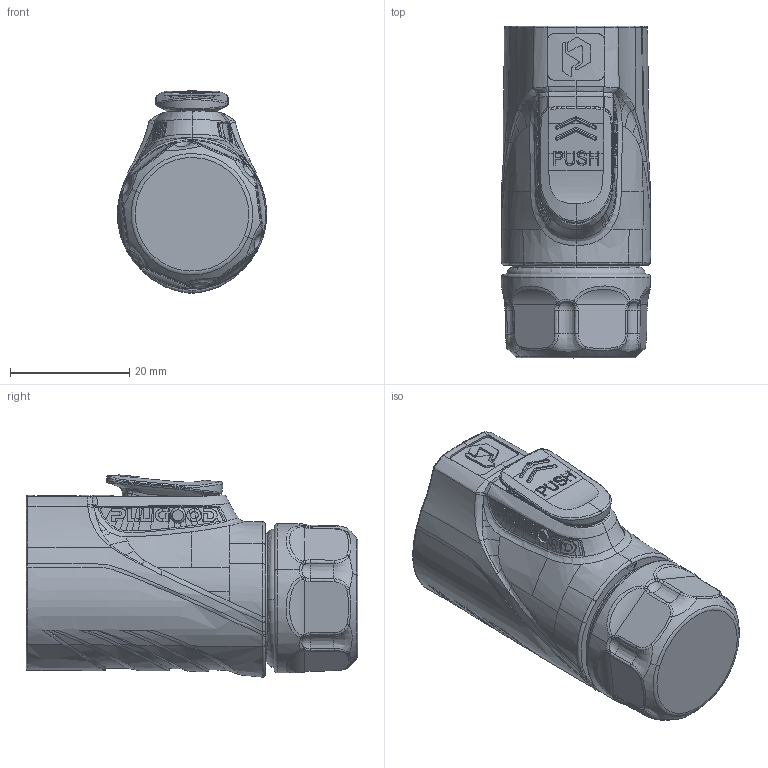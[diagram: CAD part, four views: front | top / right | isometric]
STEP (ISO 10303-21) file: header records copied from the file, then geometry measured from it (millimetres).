
FILE_DESCRIPTION (( 'STEP AP203' ), '1' );
FILE_NAME ('PLG16 2芯直头插头装配体_.STEP', '2025-08-22T06:08:19', ( '' ), ( '' ), 'SwSTEP 2.0', 'SolidWorks 2024', '' );
FILE_SCHEMA (( 'CONFIG_CONTROL_DESIGN' ));
Products named in the file (1): PLG16 2芯直头插头装配体_
Bounding box: 24.99 x 55.6 x 33.93 mm (x, y, z)
Volume: 25034 mm3; surface area: 11167.9 mm2
Topology: 3 solids, 3 shells, 1158 faces, 3113 edges, 1974 vertices
Faces by surface type: bspline 654, plane 231, cylinder 150, torus 65, cone 56, sphere 2
Entity records: 90378 total; most frequent: CARTESIAN_POINT 66930, ORIENTED_EDGE 6214, EDGE_CURVE 3107, DIRECTION 2806, VERTEX_POINT 1974, B_SPLINE_CURVE_WITH_KNOTS 1782, EDGE_LOOP 1195, FACE_OUTER_BOUND 1158
